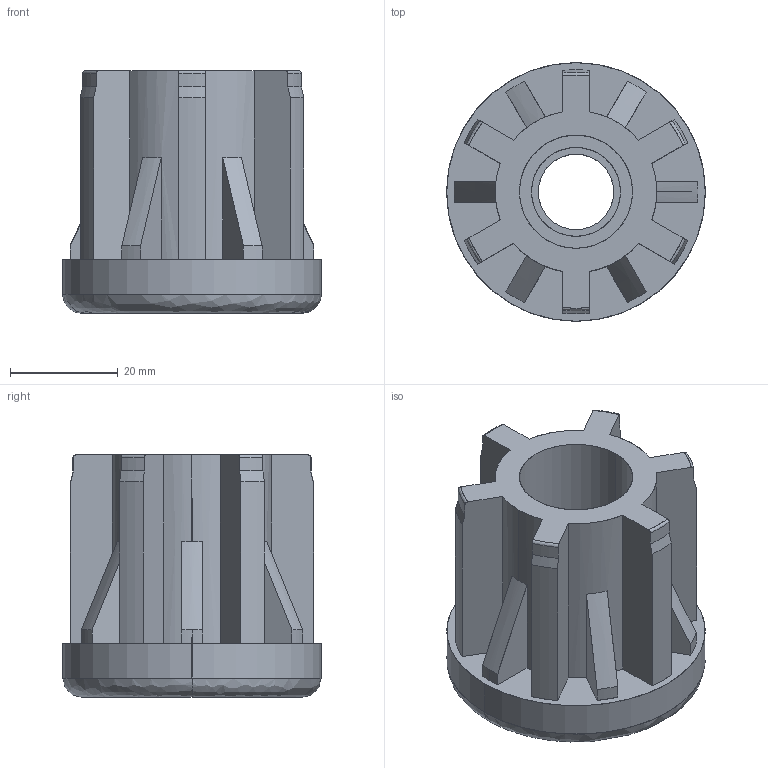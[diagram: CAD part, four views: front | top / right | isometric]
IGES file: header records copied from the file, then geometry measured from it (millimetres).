
Start section: SolidWorks IGES file using analytic representation for surfaces
Global section: file name: Y:\Tecnodin, S.L\PLAPP-Dirección - Documentos\General\Models CAD\Actiby\42006448212.IGS; native system: SolidWorks 2018; preprocessor: SolidWorks 2018; author: GerPro; date: 200225.181338; units: millimetre
Bounding box: 48 x 48 x 45 mm (x, y, z)
Surface area: 16355.6 mm2 (no closed solid volume)
Topology: 0 solids, 0 shells, 93 faces, 1047 edges, 1047 vertices
Faces by surface type: revolution 54, bspline 39
